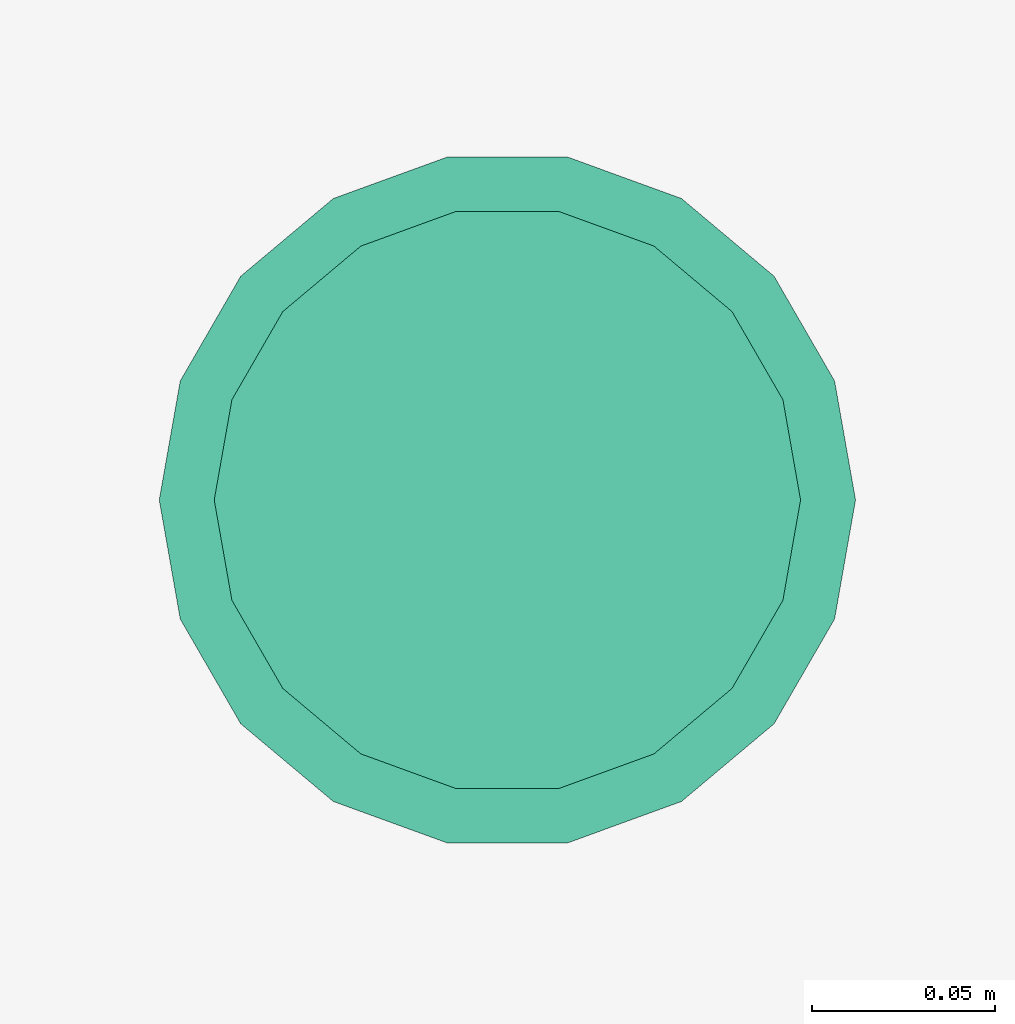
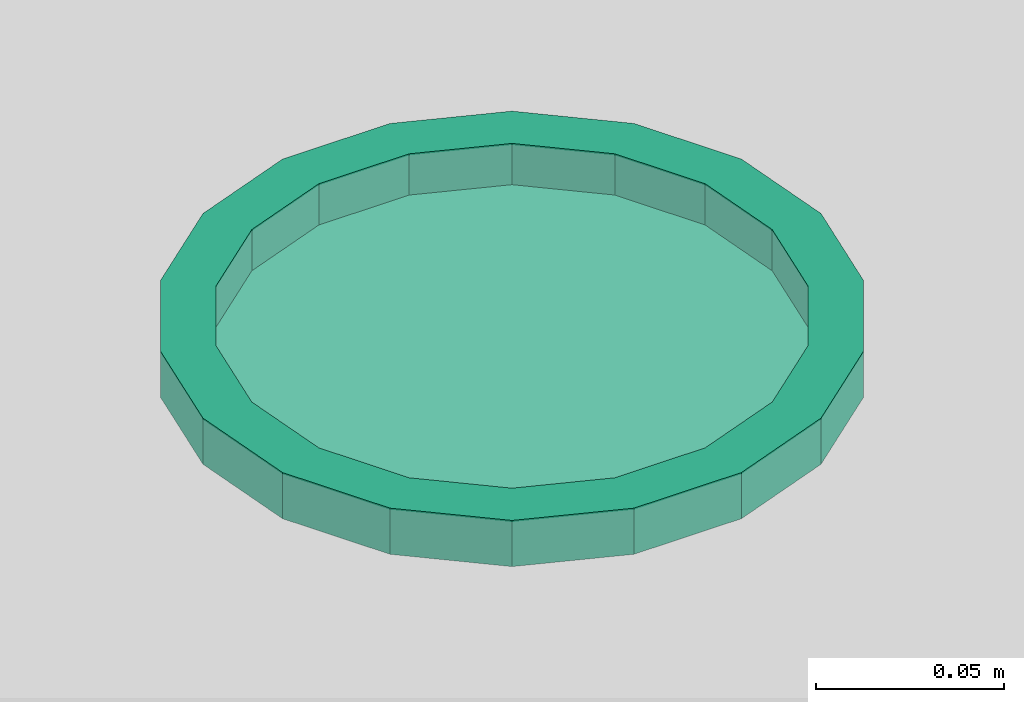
# One storey, part 17 of 24: 1 flow terminal.
"""IFC2X3 building model written with IfcOpenShell, lengths in inches."""

from ifc_helpers import new_model, entity, si_unit, converted_unit, derived_unit, money_unit, direction, frame, origin_with_axes, place, context, subcontext, project, spatial, open_shell, faceted_brep, surface_model, source, transform, mapped, type_object, element, save


model = new_model("IFC2X3")

# Units and contexts
model_context = context("Model", 3, precision=0.000393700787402, world=origin_with_axes(), true_north=direction((0.0, 1.0)))
body_context = subcontext(model_context, "Body", "Model", "MODEL_VIEW")
ifc_project = project(units=[converted_unit("LENGTHUNIT", "INCH", entity("IfcPositiveLengthMeasure", 0.0254), si_unit("LENGTHUNIT", "METRE"), dimensions=[1, 0, 0, 0, 0, 0, 0]), converted_unit("AREAUNIT", "SQUARE_FOOT", entity("IfcPositiveLengthMeasure", 0.09290304), si_unit("AREAUNIT", "SQUARE_METRE"), dimensions=[2, 0, 0, 0, 0, 0, 0]), si_unit("PLANEANGLEUNIT", "RADIAN"), si_unit("SOLIDANGLEUNIT", "STERADIAN"), money_unit("USD"), converted_unit("TIMEUNIT", "Year", entity("IfcTimeMeasure", 31556926.0), si_unit("TIMEUNIT", "SECOND"), dimensions=[0, 0, 1, 0, 0, 0, 0]), si_unit("MASSUNIT", "GRAM", prefix="KILO"), si_unit("THERMODYNAMICTEMPERATUREUNIT", "DEGREE_CELSIUS"), si_unit("LUMINOUSINTENSITYUNIT", "LUMEN"), si_unit("ENERGYUNIT", "JOULE", prefix="MEGA"), derived_unit("THERMALCONDUCTANCEUNIT", [(si_unit("POWERUNIT", "WATT"), 1), (si_unit("LENGTHUNIT", "METRE"), -1), (si_unit("THERMODYNAMICTEMPERATUREUNIT", "KELVIN"), -1)]), derived_unit("SPECIFICHEATCAPACITYUNIT", [(si_unit("ENERGYUNIT", "JOULE"), 1), (si_unit("MASSUNIT", "GRAM", prefix="KILO"), -1), (si_unit("THERMODYNAMICTEMPERATUREUNIT", "KELVIN"), -1)]), derived_unit("MASSDENSITYUNIT", [(si_unit("MASSUNIT", "GRAM", prefix="KILO"), 1), (si_unit("VOLUMEUNIT", "CUBIC_METRE"), -1)])], contexts=[model_context])

# Site, building, storey
site_placement = place(None, origin_with_axes())
site = spatial("IfcSite", under=ifc_project, at=site_placement, Name="Site", CompositionType="ELEMENT")
building_placement = place(site_placement, origin_with_axes())
building = spatial("IfcBuilding", under=site, at=building_placement, Name="Building", CompositionType="ELEMENT")
storey_placement = place(building_placement, origin_with_axes())
storey = spatial("IfcBuildingStorey", under=building, at=storey_placement, Name="First Floor", CompositionType="ELEMENT", Elevation=0.0)

# Flow terminal
light_fixture_type = type_object("IfcLightFixtureType", Name="Recessed Spot 25", PredefinedType="NOTDEFINED")
shared_shape = source(origin_with_axes(), body_context, "Body", "SurfaceModel", [
    faceted_brep([(3.74015748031, 0.0, -0.590551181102), (3.51459838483, 1.27920919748, -0.590551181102), (3.51459838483, 1.27920919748, 0.0), (3.74015748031, 0.0, 0.0), (3.51459838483, -1.27920919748, -0.590551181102), (2.86512685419, -2.40412688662, -0.590551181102), (1.87007874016, -3.23907139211, -0.590551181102), (0.649471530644, -3.6833360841, -0.590551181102), (-0.649471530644, -3.6833360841, -0.590551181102), (-1.87007874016, -3.23907139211, -0.590551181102), (-2.86512685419, -2.40412688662, -0.590551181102), (-3.51459838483, -1.27920919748, -0.590551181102), (-3.74015748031, 0.0, -0.590551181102), (-3.51459838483, 1.27920919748, -0.590551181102), (-2.86512685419, 2.40412688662, -0.590551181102), (-1.87007874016, 3.23907139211, -0.590551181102), (-0.649471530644, 3.6833360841, -0.590551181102), (0.649471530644, 3.6833360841, -0.590551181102), (1.87007874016, 3.23907139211, -0.590551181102), (2.86512685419, 2.40412688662, -0.590551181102), (3.14960629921, 0.0, -0.590551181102), (2.95966179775, 1.07722879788, -0.590551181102), (2.41273840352, 2.02452790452, -0.590551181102), (1.57480314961, 2.72763906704, -0.590551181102), (0.546923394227, 3.1017567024, -0.590551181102), (-0.546923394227, 3.1017567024, -0.590551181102), (-1.57480314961, 2.72763906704, -0.590551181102), (-2.41273840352, 2.02452790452, -0.590551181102), (-2.95966179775, 1.07722879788, -0.590551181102), (-3.14960629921, 0.0, -0.590551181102), (-2.95966179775, -1.07722879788, -0.590551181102), (-2.41273840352, -2.02452790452, -0.590551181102), (-1.57480314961, -2.72763906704, -0.590551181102), (-0.546923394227, -3.1017567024, -0.590551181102), (0.546923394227, -3.1017567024, -0.590551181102), (1.57480314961, -2.72763906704, -0.590551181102), (2.41273840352, -2.02452790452, -0.590551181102), (2.95966179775, -1.07722879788, -0.590551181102), (2.86512685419, 2.40412688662, 0.0), (1.87007874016, 3.23907139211, 0.0), (0.649471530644, 3.6833360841, 0.0), (-0.649471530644, 3.6833360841, 0.0), (-1.87007874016, 3.23907139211, 0.0), (-2.86512685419, 2.40412688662, 0.0), (-3.51459838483, 1.27920919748, 0.0), (-3.74015748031, 0.0, 0.0), (-3.51459838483, -1.27920919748, 0.0), (-2.86512685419, -2.40412688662, 0.0), (-1.87007874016, -3.23907139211, 0.0), (-0.649471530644, -3.6833360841, 0.0), (0.649471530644, -3.6833360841, 0.0), (1.87007874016, -3.23907139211, 0.0), (2.86512685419, -2.40412688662, 0.0), (3.51459838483, -1.27920919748, 0.0), (3.14960629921, 0.0, 0.0), (2.95966179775, -1.07722879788, 0.0), (2.41273840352, -2.02452790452, 0.0), (1.57480314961, -2.72763906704, 0.0), (0.546923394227, -3.1017567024, 0.0), (-0.546923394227, -3.1017567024, 0.0), (-1.57480314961, -2.72763906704, 0.0), (-2.41273840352, -2.02452790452, 0.0), (-2.95966179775, -1.07722879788, 0.0), (-3.14960629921, 0.0, 0.0), (-2.95966179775, 1.07722879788, 0.0), (-2.41273840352, 2.02452790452, 0.0), (-1.57480314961, 2.72763906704, 0.0), (-0.546923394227, 3.1017567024, 0.0), (0.546923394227, 3.1017567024, 0.0), (1.57480314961, 2.72763906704, 0.0), (2.41273840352, 2.02452790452, 0.0), (2.95966179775, 1.07722879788, 0.0)], [[[0, 1, 2, 3]], [[0, 4, 5, 6, 7, 8, 9, 10, 11, 12, 13, 14, 15, 16, 17, 18, 19, 1], [20, 21, 22, 23, 24, 25, 26, 27, 28, 29, 30, 31, 32, 33, 34, 35, 36, 37]], [[1, 19, 38, 2]], [[3, 2, 38, 39, 40, 41, 42, 43, 44, 45, 46, 47, 48, 49, 50, 51, 52, 53], [54, 55, 56, 57, 58, 59, 60, 61, 62, 63, 64, 65, 66, 67, 68, 69, 70, 71]], [[4, 0, 3, 53]], [[5, 4, 53, 52]], [[6, 5, 52, 51]], [[7, 6, 51, 50]], [[8, 7, 50, 49]], [[9, 8, 49, 48]], [[10, 9, 48, 47]], [[11, 10, 47, 46]], [[12, 11, 46, 45]], [[13, 12, 45, 44]], [[14, 13, 44, 43]], [[15, 14, 43, 42]], [[16, 15, 42, 41]], [[17, 16, 41, 40]], [[18, 17, 40, 39]], [[19, 18, 39, 38]], [[21, 20, 54, 71]], [[22, 21, 71, 70]], [[23, 22, 70, 69]], [[24, 23, 69, 68]], [[25, 24, 68, 67]], [[26, 25, 67, 66]], [[27, 26, 66, 65]], [[28, 27, 65, 64]], [[29, 28, 64, 63]], [[30, 29, 63, 62]], [[31, 30, 62, 61]], [[32, 31, 61, 60]], [[33, 32, 60, 59]], [[34, 33, 59, 58]], [[35, 34, 58, 57]], [[36, 35, 57, 56]], [[37, 36, 56, 55]], [[20, 37, 55, 54]]]),
    surface_model("IfcShellBasedSurfaceModel", [(3.14960629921, 0.0, -0.527559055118), (2.95966179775, -1.07722879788, -0.527559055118), (2.41273840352, -2.02452790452, -0.527559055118), (1.57480314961, -2.72763906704, -0.527559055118), (0.546923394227, -3.1017567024, -0.527559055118), (-0.546923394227, -3.1017567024, -0.527559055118), (-1.57480314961, -2.72763906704, -0.527559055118), (-2.41273840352, -2.02452790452, -0.527559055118), (-2.95966179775, -1.07722879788, -0.527559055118), (-3.14960629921, 0.0, -0.527559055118), (-2.95966179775, 1.07722879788, -0.527559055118), (-2.41273840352, 2.02452790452, -0.527559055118), (-1.57480314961, 2.72763906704, -0.527559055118), (-0.546923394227, 3.1017567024, -0.527559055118), (0.546923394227, 3.1017567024, -0.527559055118), (1.57480314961, 2.72763906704, -0.527559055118), (2.41273840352, 2.02452790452, -0.527559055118), (2.95966179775, 1.07722879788, -0.527559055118)], [open_shell([[[0, 1, 2, 3, 4, 5, 6, 7, 8, 9, 10, 11, 12, 13, 14, 15, 16, 17]]])]),
])
flow_terminal_placement = place(storey_placement, frame((862.684500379, 300.121365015, 101.0), z_axis=(0.0, 0.0, 1.0), x_axis=(1.0, 0.0, 0.0)))
element("IfcFlowTerminal", 1, at=flow_terminal_placement, inside=storey, type_object=light_fixture_type, Name="L-03", context=body_context, shape_type="MappedRepresentation", body=[
    mapped(shared_shape, transform((0.0, 0.0, 0.0))),
])

save(model, "model.ifc")
